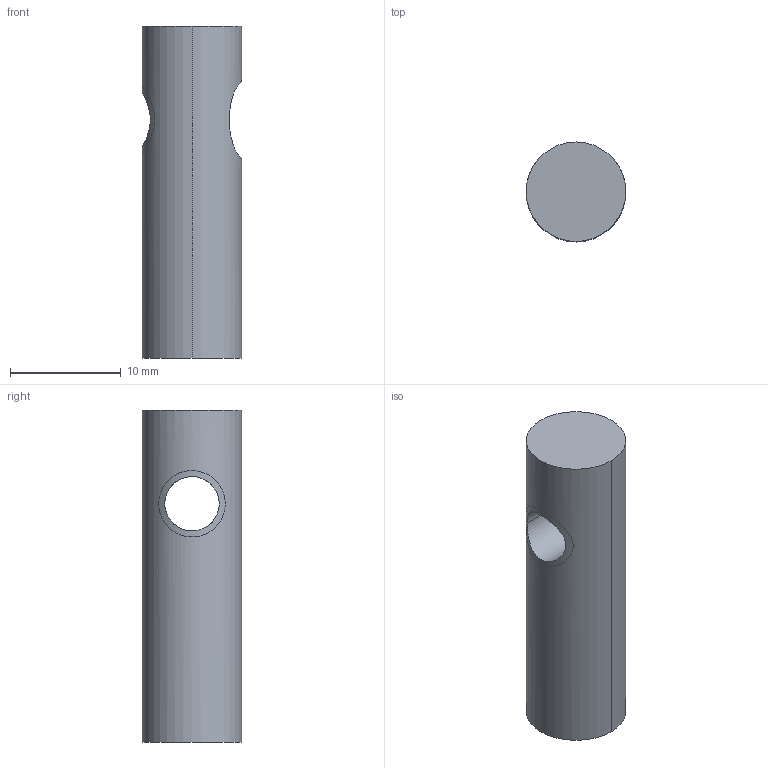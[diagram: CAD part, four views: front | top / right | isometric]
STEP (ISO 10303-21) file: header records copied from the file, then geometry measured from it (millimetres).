
FILE_DESCRIPTION(/* description */ ('VariCAD 2010-1.04 AP-203'),/* implementation_level */ '2;1');
FILE_NAME(/* name */ '0353-19-36',/* time_stamp */ '2010-01-26T14:45:01-07:00',/* author */ (''),/* organization */ (''),/* preprocessor_version */ 'ST-DEVELOPER v12',/* originating_system */ 'VariCAD 2010-1.04; kernel version (20090520)',/* authorisation */ '');
FILE_SCHEMA (('CONFIG_CONTROL_DESIGN'));
Length unit declared in the file: millimetre
Products named in the file (1): Part
Bounding box: 9 x 9 x 30 mm (x, y, z)
Volume: 1608.6 mm3; surface area: 1672.4 mm2
Topology: 3 solids, 3 shells, 30 faces, 62 edges, 38 vertices
Faces by surface type: cylinder 19, cone 6, plane 5
Entity records: 983 total; most frequent: CARTESIAN_POINT 281, DIRECTION 146, ORIENTED_EDGE 124, EDGE_CURVE 62, AXIS2_PLACEMENT_3D 62, VERTEX_POINT 38, EDGE_LOOP 36, ADVANCED_FACE 30
